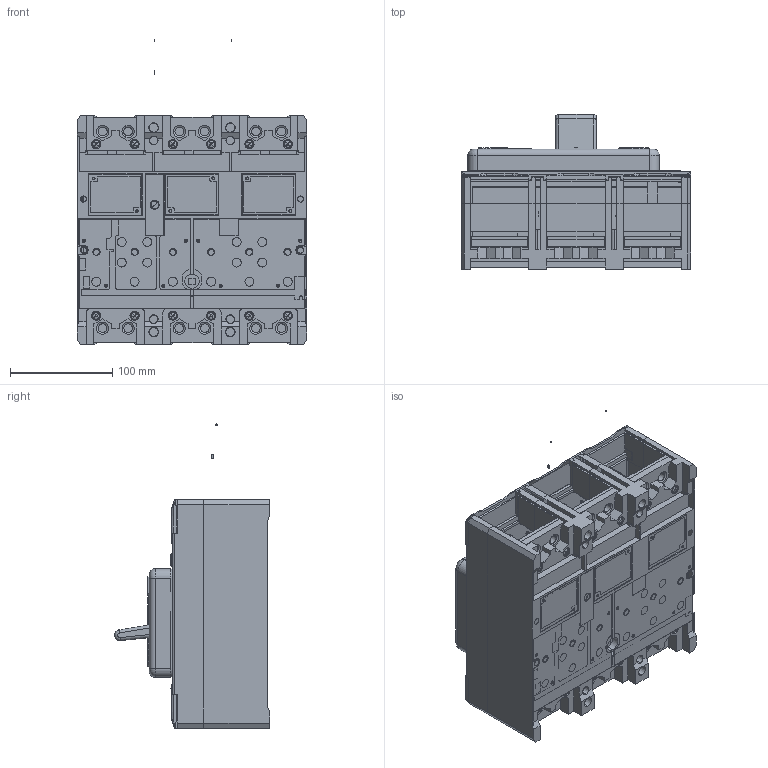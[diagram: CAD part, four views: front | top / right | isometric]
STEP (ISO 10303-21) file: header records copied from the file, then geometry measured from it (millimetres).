
FILE_DESCRIPTION (( 'STEP AP203' ), '1' );
FILE_NAME ('臍57-39.STEP', '2014-06-19T07:10:23', ( 'admin' ), ( 'Microsoft' ), 'SwSTEP 2.0', 'SolidWorks 2007', '' );
FILE_SCHEMA (( 'CONFIG_CONTROL_DESIGN' ));
Products named in the file (1): 臍57-39
Bounding box: 224.8 x 151.78 x 297.9 mm (x, y, z)
Surface area: 438571.2 mm2 (no closed solid volume)
Topology: 0 solids, 88 shells, 1420 faces, 5594 edges, 4160 vertices
Faces by surface type: plane 679, cylinder 350, sphere 165, torus 96, cone 78, bspline 52
Entity records: 63477 total; most frequent: CARTESIAN_POINT 17171, DIRECTION 9642, ORIENTED_EDGE 8472, EDGE_CURVE 5557, VERTEX_POINT 4144, VECTOR 3538, LINE 3538, AXIS2_PLACEMENT_3D 3052
